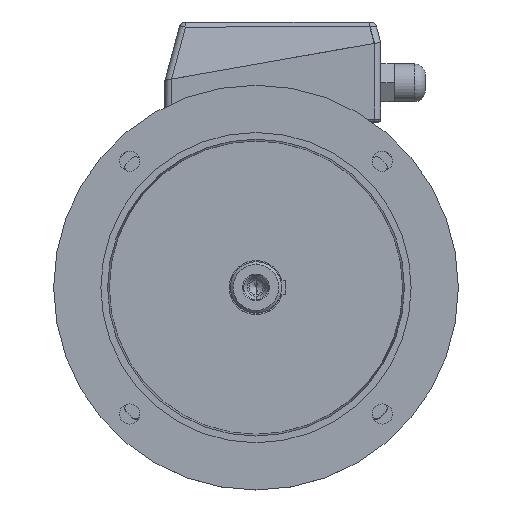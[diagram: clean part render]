
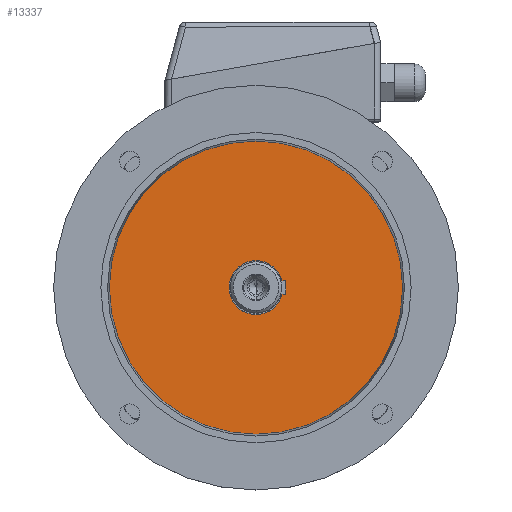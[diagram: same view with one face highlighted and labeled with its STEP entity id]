
A CAD part, top view. The second image highlights one B-rep face of the part: STEP entity #13337.
In plain terms, the highlighted planar face has unit normal (0, 0, 1).
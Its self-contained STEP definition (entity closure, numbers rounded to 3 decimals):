
#830 = CARTESIAN_POINT ( 'NONE',  ( 108.688, 0., 47. ) ) ;
#902 = CARTESIAN_POINT ( 'NONE',  ( -108.688, 0., 47. ) ) ;
#1033 = CIRCLE ( 'NONE', #1034, 108.688 ) ;
#1034 = AXIS2_PLACEMENT_3D ( 'NONE', #1035, #1036, #1037 ) ;
#1035 = CARTESIAN_POINT ( 'NONE',  ( 0., 0., 47. ) ) ;
#1036 = DIRECTION ( 'NONE',  ( 0., 0., 1. ) ) ;
#1037 = DIRECTION ( 'NONE',  ( 1., 0., 0. ) ) ;
#3422 = CARTESIAN_POINT ( 'NONE',  ( 0., 20., 47. ) ) ;
#3704 = CIRCLE ( 'NONE', #3705, 20. ) ;
#3705 = AXIS2_PLACEMENT_3D ( 'NONE', #3706, #3707, #3708 ) ;
#3706 = CARTESIAN_POINT ( 'NONE',  ( 0., 0., 47. ) ) ;
#3707 = DIRECTION ( 'NONE',  ( 0., 0., 1. ) ) ;
#3708 = DIRECTION ( 'NONE',  ( 1., 0., 0. ) ) ;
#3878 = CIRCLE ( 'NONE', #3879, 108.688 ) ;
#3879 = AXIS2_PLACEMENT_3D ( 'NONE', #3880, #3881, #3882 ) ;
#3880 = CARTESIAN_POINT ( 'NONE',  ( 0., 0., 47. ) ) ;
#3881 = DIRECTION ( 'NONE',  ( 0., 0., 1. ) ) ;
#3882 = DIRECTION ( 'NONE',  ( 1., 0., 0. ) ) ;
#4657 = CARTESIAN_POINT ( 'NONE',  ( 0., -20., 47. ) ) ;
#5541 = VERTEX_POINT ( 'NONE', #830 ) ;
#5788 = VERTEX_POINT ( 'NONE', #902 ) ;
#6037 = EDGE_CURVE ( 'NONE', #5788, #5541, #1033, .T. ) ;
#9325 = EDGE_CURVE ( 'NONE', #5541, #5788, #3878, .T. ) ;
#11041 = CIRCLE ( 'NONE', #11042, 20. ) ;
#11042 = AXIS2_PLACEMENT_3D ( 'NONE', #11043, #11044, #11045 ) ;
#11043 = CARTESIAN_POINT ( 'NONE',  ( 0., 0., 47. ) ) ;
#11044 = DIRECTION ( 'NONE',  ( 0., 0., 1. ) ) ;
#11045 = DIRECTION ( 'NONE',  ( 1., 0., 0. ) ) ;
#11759 = FACE_BOUND ( 'NONE', #13285, .T. ) ;
#11760 = FACE_OUTER_BOUND ( 'NONE', #12833, .T. ) ;
#11761 = PLANE ( 'NONE',  #11762 ) ;
#11762 = AXIS2_PLACEMENT_3D ( 'NONE', #11763, #11764, #11765 ) ;
#11763 = CARTESIAN_POINT ( 'NONE',  ( 0., 110., 47. ) ) ;
#11764 = DIRECTION ( 'NONE',  ( 0., 0., 1. ) ) ;
#11765 = DIRECTION ( 'NONE',  ( 1., 0., 0. ) ) ;
#12589 = ORIENTED_EDGE ( 'NONE', *, *, #6037, .T. ) ;
#12713 = ORIENTED_EDGE ( 'NONE', *, *, #9325, .T. ) ;
#12833 = EDGE_LOOP ( 'NONE', ( #12713, #12589 ) ) ;
#12894 = ORIENTED_EDGE ( 'NONE', *, *, #14442, .F. ) ;
#13014 = EDGE_CURVE ( 'NONE', #14196, #15426, #11041, .T. ) ;
#13106 = ORIENTED_EDGE ( 'NONE', *, *, #13014, .F. ) ;
#13285 = EDGE_LOOP ( 'NONE', ( #13106, #12894 ) ) ;
#13337 = ADVANCED_FACE ( 'NONE', ( #11759, #11760 ), #11761, .T. ) ;
#14196 = VERTEX_POINT ( 'NONE', #3422 ) ;
#14442 = EDGE_CURVE ( 'NONE', #15426, #14196, #3704, .T. ) ;
#15426 = VERTEX_POINT ( 'NONE', #4657 ) ;
